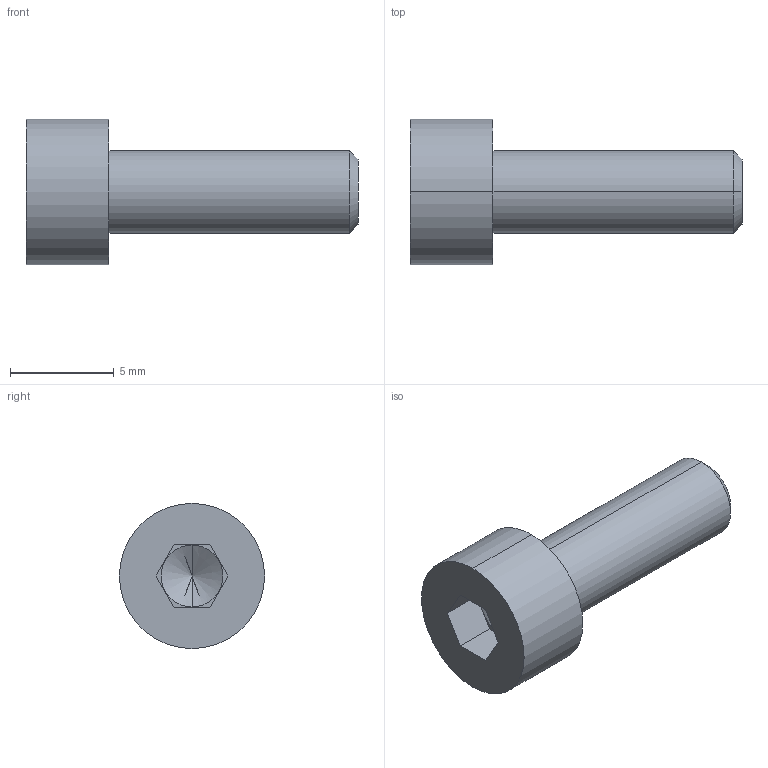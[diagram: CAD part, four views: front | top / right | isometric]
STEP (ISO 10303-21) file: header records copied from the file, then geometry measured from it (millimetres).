
FILE_DESCRIPTION (( 'STEP AP214' ), '1' );
FILE_NAME ('M4x12_DIN912.STEP', '2016-05-08T07:37:32', ( '' ), ( '' ), 'SwSTEP 2.0', 'SolidWorks 2014', '' );
FILE_SCHEMA (( 'AUTOMOTIVE_DESIGN' ));
Length unit declared in the file: millimetre
Products named in the file (1): M4x12_DIN912
Bounding box: 16 x 7 x 7 mm (x, y, z)
Volume: 286.1 mm3; surface area: 334.2 mm2
Topology: 1 solids, 1 shells, 18 faces, 40 edges, 25 vertices
Faces by surface type: plane 10, cylinder 4, cone 4
Entity records: 718 total; most frequent: DIRECTION 88, CARTESIAN_POINT 82, ORIENTED_EDGE 76, EDGE_CURVE 38, AXIS2_PLACEMENT_3D 31, VECTOR 26, LINE 26, VERTEX_POINT 25
